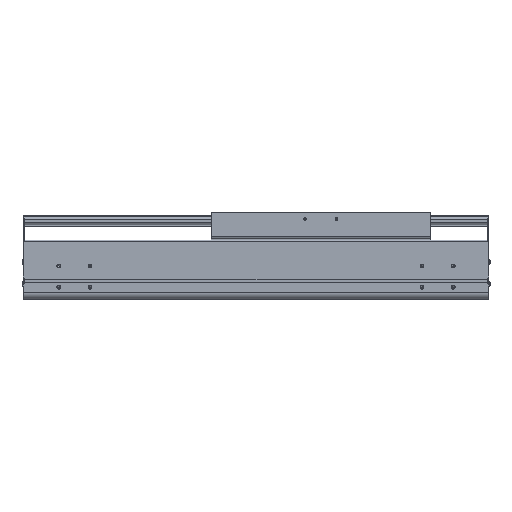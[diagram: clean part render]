
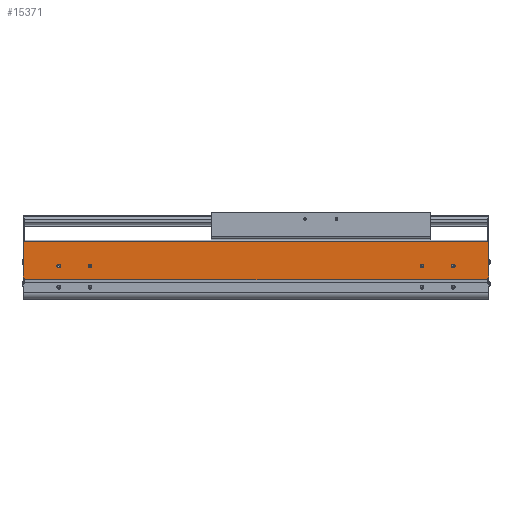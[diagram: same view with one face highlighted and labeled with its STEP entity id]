
A CAD part, top view. The second image highlights one B-rep face of the part: STEP entity #15371.
In plain terms, the highlighted planar face has unit normal (0, 0, 1).
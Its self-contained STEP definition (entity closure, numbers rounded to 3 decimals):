
#1626=DIRECTION('',(0.,-1.,0.));
#1627=VECTOR('',#1626,2.55);
#1628=CARTESIAN_POINT('',(0.,34.65,107.));
#1629=LINE('',#1628,#1627);
#2109=DIRECTION('',(1.,0.,0.));
#2110=VECTOR('',#2109,2.);
#2111=CARTESIAN_POINT('',(-741.,34.65,107.));
#2112=LINE('',#2111,#2110);
#2113=CARTESIAN_POINT('',(-54.5,54.,107.));
#2114=DIRECTION('',(0.,0.,-1.));
#2115=DIRECTION('',(1.,0.,0.));
#2116=AXIS2_PLACEMENT_3D('',#2113,#2114,#2115);
#2118=CARTESIAN_POINT('',(-54.5,54.,107.));
#2119=DIRECTION('',(0.,0.,-1.));
#2120=DIRECTION('',(-1.,0.,0.));
#2121=AXIS2_PLACEMENT_3D('',#2118,#2119,#2120);
#2123=CARTESIAN_POINT('',(-104.5,54.,107.));
#2124=DIRECTION('',(0.,0.,-1.));
#2125=DIRECTION('',(1.,0.,0.));
#2126=AXIS2_PLACEMENT_3D('',#2123,#2124,#2125);
#2128=CARTESIAN_POINT('',(-104.5,54.,107.));
#2129=DIRECTION('',(0.,0.,-1.));
#2130=DIRECTION('',(-1.,0.,0.));
#2131=AXIS2_PLACEMENT_3D('',#2128,#2129,#2130);
#2133=CARTESIAN_POINT('',(-684.5,54.,107.));
#2134=DIRECTION('',(0.,0.,-1.));
#2135=DIRECTION('',(1.,0.,0.));
#2136=AXIS2_PLACEMENT_3D('',#2133,#2134,#2135);
#2138=CARTESIAN_POINT('',(-684.5,54.,107.));
#2139=DIRECTION('',(0.,0.,-1.));
#2140=DIRECTION('',(-1.,0.,0.));
#2141=AXIS2_PLACEMENT_3D('',#2138,#2139,#2140);
#2143=CARTESIAN_POINT('',(-634.5,54.,107.));
#2144=DIRECTION('',(0.,0.,-1.));
#2145=DIRECTION('',(1.,0.,0.));
#2146=AXIS2_PLACEMENT_3D('',#2143,#2144,#2145);
#2148=CARTESIAN_POINT('',(-634.5,54.,107.));
#2149=DIRECTION('',(0.,0.,-1.));
#2150=DIRECTION('',(-1.,0.,0.));
#2151=AXIS2_PLACEMENT_3D('',#2148,#2149,#2150);
#2153=DIRECTION('',(0.,-1.,0.));
#2154=VECTOR('',#2153,2.55);
#2155=CARTESIAN_POINT('',(-739.,34.65,107.));
#2156=LINE('',#2155,#2154);
#2157=DIRECTION('',(0.,-1.,0.));
#2158=VECTOR('',#2157,58.85);
#2159=CARTESIAN_POINT('',(-741.,93.5,107.));
#2160=LINE('',#2159,#2158);
#2161=DIRECTION('',(0.,1.,0.));
#2162=VECTOR('',#2161,58.85);
#2163=CARTESIAN_POINT('',(2.,34.65,107.));
#2164=LINE('',#2163,#2162);
#2165=DIRECTION('',(1.,0.,0.));
#2166=VECTOR('',#2165,739.);
#2167=CARTESIAN_POINT('',(-739.,32.1,107.));
#2168=LINE('',#2167,#2166);
#2273=DIRECTION('',(-1.,0.,0.));
#2274=VECTOR('',#2273,743.);
#2275=CARTESIAN_POINT('',(2.,93.5,107.));
#2276=LINE('',#2275,#2274);
#8773=DIRECTION('',(1.,0.,0.));
#8774=VECTOR('',#8773,2.);
#8775=CARTESIAN_POINT('',(0.,34.65,107.));
#8776=LINE('',#8775,#8774);
#10023=CARTESIAN_POINT('',(-741.,34.65,107.));
#10024=VERTEX_POINT('',#10023);
#10025=CARTESIAN_POINT('',(-741.,93.5,107.));
#10026=VERTEX_POINT('',#10025);
#10255=CARTESIAN_POINT('',(-739.,32.1,107.));
#10256=VERTEX_POINT('',#10255);
#10615=CARTESIAN_POINT('',(0.,32.1,107.));
#10616=VERTEX_POINT('',#10615);
#10617=CARTESIAN_POINT('',(-52.,54.,107.));
#10618=CARTESIAN_POINT('',(-57.,54.,107.));
#10619=VERTEX_POINT('',#10617);
#10620=VERTEX_POINT('',#10618);
#10621=CARTESIAN_POINT('',(-102.,54.,107.));
#10622=CARTESIAN_POINT('',(-107.,54.,107.));
#10623=VERTEX_POINT('',#10621);
#10624=VERTEX_POINT('',#10622);
#10625=CARTESIAN_POINT('',(-682.,54.,107.));
#10626=CARTESIAN_POINT('',(-687.,54.,107.));
#10627=VERTEX_POINT('',#10625);
#10628=VERTEX_POINT('',#10626);
#10629=CARTESIAN_POINT('',(-632.,54.,107.));
#10630=CARTESIAN_POINT('',(-637.,54.,107.));
#10631=VERTEX_POINT('',#10629);
#10632=VERTEX_POINT('',#10630);
#11561=CARTESIAN_POINT('',(2.,34.65,107.));
#11562=VERTEX_POINT('',#11561);
#11563=CARTESIAN_POINT('',(2.,93.5,107.));
#11564=VERTEX_POINT('',#11563);
#11907=CARTESIAN_POINT('',(0.,34.65,107.));
#11908=VERTEX_POINT('',#11907);
#12095=CARTESIAN_POINT('',(-739.,34.65,107.));
#12096=VERTEX_POINT('',#12095);
#15329=CARTESIAN_POINT('',(-369.5,62.8,107.));
#15330=DIRECTION('',(0.,0.,1.));
#15331=DIRECTION('',(0.,-1.,0.));
#15332=AXIS2_PLACEMENT_3D('',#15329,#15330,#15331);
#15333=PLANE('',#15332);
#15334=ORIENTED_EDGE('',*,*,#13582,.F.);
#15335=ORIENTED_EDGE('',*,*,#15324,.F.);
#15336=ORIENTED_EDGE('',*,*,#14211,.F.);
#15338=ORIENTED_EDGE('',*,*,#15337,.F.);
#15339=ORIENTED_EDGE('',*,*,#13320,.F.);
#15341=ORIENTED_EDGE('',*,*,#15340,.F.);
#15342=ORIENTED_EDGE('',*,*,#14931,.T.);
#15344=ORIENTED_EDGE('',*,*,#15343,.F.);
#15345=EDGE_LOOP('',(#15334,#15335,#15336,#15338,#15339,#15341,#15342,#15344));
#15346=FACE_OUTER_BOUND('',#15345,.F.);
#15348=ORIENTED_EDGE('',*,*,#15347,.F.);
#15350=ORIENTED_EDGE('',*,*,#15349,.F.);
#15351=EDGE_LOOP('',(#15348,#15350));
#15352=FACE_BOUND('',#15351,.F.);
#15354=ORIENTED_EDGE('',*,*,#15353,.F.);
#15356=ORIENTED_EDGE('',*,*,#15355,.F.);
#15357=EDGE_LOOP('',(#15354,#15356));
#15358=FACE_BOUND('',#15357,.F.);
#15360=ORIENTED_EDGE('',*,*,#15359,.F.);
#15362=ORIENTED_EDGE('',*,*,#15361,.F.);
#15363=EDGE_LOOP('',(#15360,#15362));
#15364=FACE_BOUND('',#15363,.F.);
#15366=ORIENTED_EDGE('',*,*,#15365,.F.);
#15368=ORIENTED_EDGE('',*,*,#15367,.F.);
#15369=EDGE_LOOP('',(#15366,#15368));
#15370=FACE_BOUND('',#15369,.F.);
#15371=ADVANCED_FACE('',(#15346,#15352,#15358,#15364,#15370),#15333,.T.);
#2117=CIRCLE('',#2116,2.5);
#2122=CIRCLE('',#2121,2.5);
#2127=CIRCLE('',#2126,2.5);
#2132=CIRCLE('',#2131,2.5);
#2137=CIRCLE('',#2136,2.5);
#2142=CIRCLE('',#2141,2.5);
#2147=CIRCLE('',#2146,2.5);
#2152=CIRCLE('',#2151,2.5);
#13320=EDGE_CURVE('',#11562,#11564,#2164,.T.);
#13582=EDGE_CURVE('',#12096,#10256,#2156,.T.);
#14211=EDGE_CURVE('',#10026,#10024,#2160,.T.);
#14931=EDGE_CURVE('',#11908,#10616,#1629,.T.);
#15324=EDGE_CURVE('',#10024,#12096,#2112,.T.);
#15337=EDGE_CURVE('',#11564,#10026,#2276,.T.);
#15340=EDGE_CURVE('',#11908,#11562,#8776,.T.);
#15343=EDGE_CURVE('',#10256,#10616,#2168,.T.);
#15347=EDGE_CURVE('',#10623,#10624,#2127,.T.);
#15349=EDGE_CURVE('',#10624,#10623,#2132,.T.);
#15353=EDGE_CURVE('',#10627,#10628,#2137,.T.);
#15355=EDGE_CURVE('',#10628,#10627,#2142,.T.);
#15359=EDGE_CURVE('',#10631,#10632,#2147,.T.);
#15361=EDGE_CURVE('',#10632,#10631,#2152,.T.);
#15365=EDGE_CURVE('',#10619,#10620,#2117,.T.);
#15367=EDGE_CURVE('',#10620,#10619,#2122,.T.);
